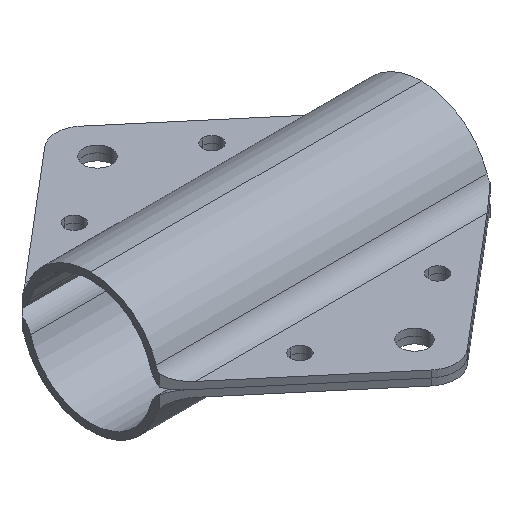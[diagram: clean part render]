
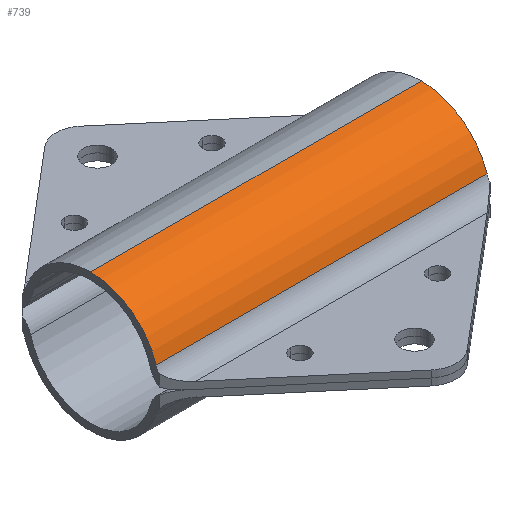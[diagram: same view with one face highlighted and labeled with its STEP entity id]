
A CAD part, isometric view. The second image highlights one B-rep face of the part: STEP entity #739.
In plain terms, the highlighted cylindrical face has radius 15.875 mm (diameter 31.75 mm), a partial arc.
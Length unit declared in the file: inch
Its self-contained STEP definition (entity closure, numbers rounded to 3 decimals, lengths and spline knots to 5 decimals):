
#15 = LINE ( 'NONE', #462, #460 ) ;
#59 = DIRECTION ( 'NONE',  ( 0., 0., 1. ) ) ;
#195 = ORIENTED_EDGE ( 'NONE', *, *, #829, .T. ) ;
#253 = DIRECTION ( 'NONE',  ( 1., 0., 0. ) ) ;
#288 = AXIS2_PLACEMENT_3D ( 'NONE', #1467, #434, #1643 ) ;
#384 = CARTESIAN_POINT ( 'NONE',  ( 1.5, 2.1625, 0.6875 ) ) ;
#434 = DIRECTION ( 'NONE',  ( -1., 0., 0. ) ) ;
#446 = VERTEX_POINT ( 'NONE', #2029 ) ;
#460 = VECTOR ( 'NONE', #1668, 39.37008 ) ;
#462 = CARTESIAN_POINT ( 'NONE',  ( 1.5, 1.56782, 0.25481 ) ) ;
#514 = CARTESIAN_POINT ( 'NONE',  ( 1.5, 2.1625, 0.6875 ) ) ;
#727 = CYLINDRICAL_SURFACE ( 'NONE', #1251, 0.625 ) ;
#739 = ADVANCED_FACE ( 'NONE', ( #1696 ), #727, .T. ) ;
#763 = ORIENTED_EDGE ( 'NONE', *, *, #1719, .T. ) ;
#772 = CARTESIAN_POINT ( 'NONE',  ( -1.5, 1.56782, 0.25481 ) ) ;
#810 = EDGE_LOOP ( 'NONE', ( #1345, #763, #195, #2183 ) ) ;
#829 = EDGE_CURVE ( 'NONE', #1414, #897, #1014, .T. ) ;
#897 = VERTEX_POINT ( 'NONE', #772 ) ;
#1009 = AXIS2_PLACEMENT_3D ( 'NONE', #1275, #253, #1449 ) ;
#1014 = CIRCLE ( 'NONE', #1009, 0.625 ) ;
#1075 = DIRECTION ( 'NONE',  ( -1., 0., 0. ) ) ;
#1251 = AXIS2_PLACEMENT_3D ( 'NONE', #1417, #1075, #59 ) ;
#1275 = CARTESIAN_POINT ( 'NONE',  ( -1.5, 2.1625, 0.0625 ) ) ;
#1345 = ORIENTED_EDGE ( 'NONE', *, *, #1871, .T. ) ;
#1414 = VERTEX_POINT ( 'NONE', #2144 ) ;
#1417 = CARTESIAN_POINT ( 'NONE',  ( 1.5, 2.1625, 0.0625 ) ) ;
#1430 = EDGE_CURVE ( 'NONE', #897, #446, #15, .T. ) ;
#1449 = DIRECTION ( 'NONE',  ( 0., 0., 1. ) ) ;
#1467 = CARTESIAN_POINT ( 'NONE',  ( 1.5, 2.1625, 0.0625 ) ) ;
#1589 = DIRECTION ( 'NONE',  ( -1., 0., 0. ) ) ;
#1630 = LINE ( 'NONE', #384, #1784 ) ;
#1643 = DIRECTION ( 'NONE',  ( 0., 0., 1. ) ) ;
#1668 = DIRECTION ( 'NONE',  ( 1., 0., 0. ) ) ;
#1696 = FACE_OUTER_BOUND ( 'NONE', #810, .T. ) ;
#1719 = EDGE_CURVE ( 'NONE', #1990, #1414, #1630, .T. ) ;
#1784 = VECTOR ( 'NONE', #1589, 39.37008 ) ;
#1871 = EDGE_CURVE ( 'NONE', #446, #1990, #2178, .T. ) ;
#1990 = VERTEX_POINT ( 'NONE', #514 ) ;
#2029 = CARTESIAN_POINT ( 'NONE',  ( 1.5, 1.56782, 0.25481 ) ) ;
#2144 = CARTESIAN_POINT ( 'NONE',  ( -1.5, 2.1625, 0.6875 ) ) ;
#2178 = CIRCLE ( 'NONE', #288, 0.625 ) ;
#2183 = ORIENTED_EDGE ( 'NONE', *, *, #1430, .T. ) ;
